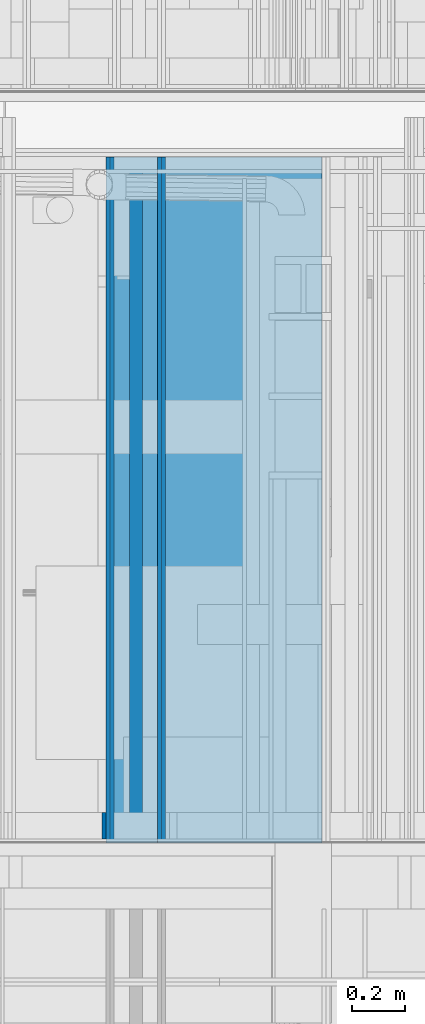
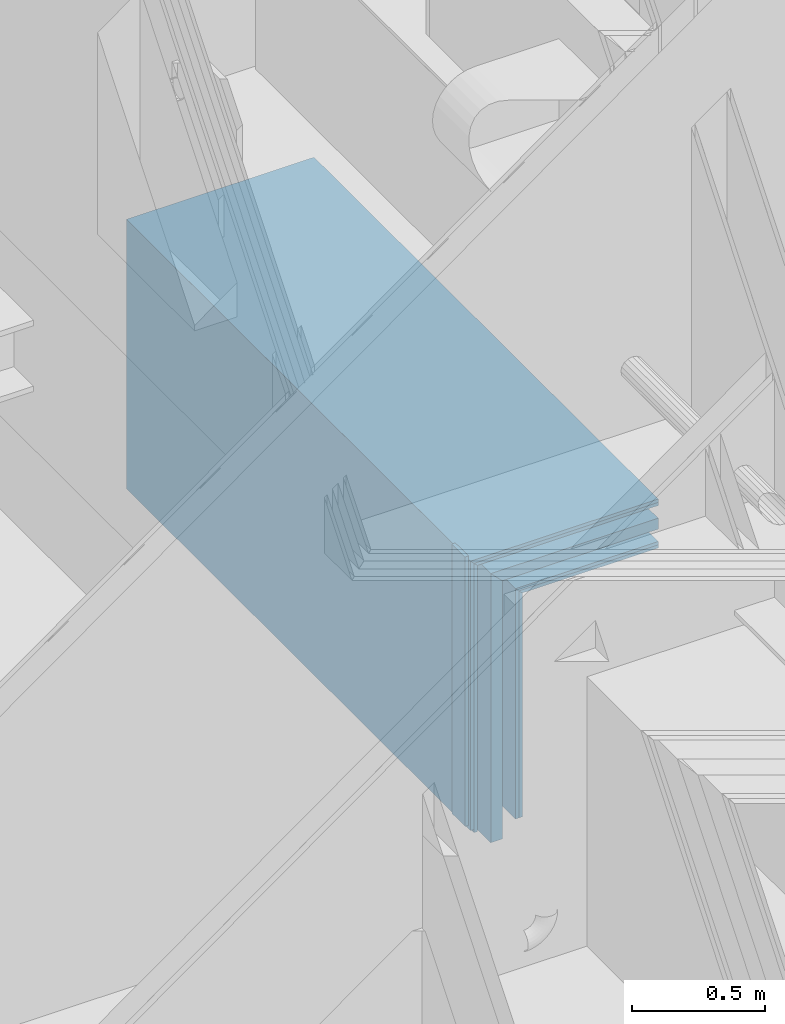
# One storey, part 17 of 583: 11 walls.
"""IFC2X3 building model written with IfcOpenShell, lengths in metres."""

from ifc_helpers import new_model, entity, si_unit, converted_unit, derived_unit, money_unit, direction, frame, frame_2d, origin_with_axes, place, context, subcontext, project, spatial, polyline, rectangle, outline, extrude, material, type_object, element, save


model = new_model("IFC2X3")

# Units and contexts
model_context = context("Model", 3, precision=1e-05, world=origin_with_axes(), true_north=direction((0.0, 1.0)))
body_context = subcontext(model_context, "Body", "Model", "MODEL_VIEW", scale=1.0)
ifc_project = project(units=[si_unit("LENGTHUNIT", "METRE"), si_unit("AREAUNIT", "SQUARE_METRE"), si_unit("VOLUMEUNIT", "CUBIC_METRE"), si_unit("ABSORBEDDOSEUNIT", "GRAY"), si_unit("AMOUNTOFSUBSTANCEUNIT", "MOLE"), si_unit("DOSEEQUIVALENTUNIT", "SIEVERT"), si_unit("ELECTRICCAPACITANCEUNIT", "FARAD"), si_unit("ELECTRICCHARGEUNIT", "COULOMB"), si_unit("ELECTRICCONDUCTANCEUNIT", "SIEMENS"), si_unit("ELECTRICCURRENTUNIT", "AMPERE"), si_unit("ELECTRICRESISTANCEUNIT", "OHM"), si_unit("ELECTRICVOLTAGEUNIT", "VOLT"), si_unit("ENERGYUNIT", "JOULE"), si_unit("FORCEUNIT", "NEWTON"), si_unit("FREQUENCYUNIT", "HERTZ"), si_unit("ILLUMINANCEUNIT", "LUX"), si_unit("INDUCTANCEUNIT", "HENRY"), si_unit("LUMINOUSFLUXUNIT", "LUMEN"), si_unit("LUMINOUSINTENSITYUNIT", "CANDELA"), si_unit("MAGNETICFLUXDENSITYUNIT", "TESLA"), si_unit("MAGNETICFLUXUNIT", "WEBER"), si_unit("MASSUNIT", "GRAM"), converted_unit("PLANEANGLEUNIT", "degree", entity("IfcReal", 0.0174532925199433), si_unit("PLANEANGLEUNIT", "RADIAN"), dimensions=[0, 0, 0, 0, 0, 0, 0]), si_unit("POWERUNIT", "WATT"), si_unit("PRESSUREUNIT", "PASCAL"), si_unit("RADIOACTIVITYUNIT", "BECQUEREL"), si_unit("SOLIDANGLEUNIT", "STERADIAN"), si_unit("THERMODYNAMICTEMPERATUREUNIT", "KELVIN"), si_unit("TIMEUNIT", "SECOND"), derived_unit("ACCELERATIONUNIT", [(si_unit("LENGTHUNIT", "METRE"), 1), (si_unit("TIMEUNIT", "SECOND"), -2)]), derived_unit("ANGULARVELOCITYUNIT", [(converted_unit("PLANEANGLEUNIT", "degree", entity("IfcReal", 0.0174532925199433), si_unit("PLANEANGLEUNIT", "RADIAN"), dimensions=[0, 0, 0, 0, 0, 0, 0]), 1), (si_unit("TIMEUNIT", "SECOND"), -1)]), derived_unit("CURVATUREUNIT", [(converted_unit("PLANEANGLEUNIT", "degree", entity("IfcReal", 0.0174532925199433), si_unit("PLANEANGLEUNIT", "RADIAN"), dimensions=[0, 0, 0, 0, 0, 0, 0]), 1), (si_unit("LENGTHUNIT", "METRE"), -1)]), derived_unit("DYNAMICVISCOSITYUNIT", [(si_unit("PRESSUREUNIT", "PASCAL"), 1), (si_unit("TIMEUNIT", "SECOND"), 1)]), derived_unit("HEATFLUXDENSITYUNIT", [(si_unit("POWERUNIT", "WATT"), 1), (si_unit("LENGTHUNIT", "METRE"), -2)]), derived_unit("HEATINGVALUEUNIT", [(si_unit("ENERGYUNIT", "JOULE"), 1), (si_unit("MASSUNIT", "GRAM"), -1)]), derived_unit("INTEGERCOUNTRATEUNIT", [(si_unit("TIMEUNIT", "SECOND"), -1)]), derived_unit("IONCONCENTRATIONUNIT", [(si_unit("MASSUNIT", "GRAM"), 1), (si_unit("VOLUMEUNIT", "CUBIC_METRE"), -1)]), derived_unit("ISOTHERMALMOISTURECAPACITYUNIT", [(si_unit("VOLUMEUNIT", "CUBIC_METRE"), 1), (si_unit("MASSUNIT", "GRAM"), -1)]), derived_unit("KINEMATICVISCOSITYUNIT", [(si_unit("AREAUNIT", "SQUARE_METRE"), 1), (si_unit("TIMEUNIT", "SECOND"), -1)]), derived_unit("LINEARFORCEUNIT", [(si_unit("FORCEUNIT", "NEWTON"), 1), (si_unit("LENGTHUNIT", "METRE"), -1)]), derived_unit("LINEARMOMENTUNIT", [(si_unit("FORCEUNIT", "NEWTON"), 1), (si_unit("LENGTHUNIT", "METRE"), -1)]), derived_unit("LINEARSTIFFNESSUNIT", [(si_unit("FORCEUNIT", "NEWTON"), 1), (si_unit("LENGTHUNIT", "METRE"), -1)]), derived_unit("LINEARVELOCITYUNIT", [(si_unit("LENGTHUNIT", "METRE"), 1), (si_unit("TIMEUNIT", "SECOND"), -1)]), derived_unit("LUMINOUSINTENSITYDISTRIBUTIONUNIT", [(si_unit("LUMINOUSINTENSITYUNIT", "CANDELA"), 1), (si_unit("LUMINOUSFLUXUNIT", "LUMEN"), -1)]), derived_unit("MASSDENSITYUNIT", [(si_unit("MASSUNIT", "GRAM"), 1), (si_unit("VOLUMEUNIT", "CUBIC_METRE"), -1)]), derived_unit("MASSFLOWRATEUNIT", [(si_unit("MASSUNIT", "GRAM"), 1), (si_unit("TIMEUNIT", "SECOND"), -1)]), derived_unit("MASSPERLENGTHUNIT", [(si_unit("MASSUNIT", "GRAM"), 1), (si_unit("LENGTHUNIT", "METRE"), -1)]), derived_unit("MODULUSOFELASTICITYUNIT", [(si_unit("FORCEUNIT", "NEWTON"), 1), (si_unit("AREAUNIT", "SQUARE_METRE"), -1)]), derived_unit("MODULUSOFLINEARSUBGRADEREACTIONUNIT", [(si_unit("FORCEUNIT", "NEWTON"), 1), (si_unit("LENGTHUNIT", "METRE"), -2)]), derived_unit("MODULUSOFROTATIONALSUBGRADEREACTIONUNIT", [(si_unit("FORCEUNIT", "NEWTON"), 1), (si_unit("LENGTHUNIT", "METRE"), 1)]), derived_unit("MODULUSOFSUBGRADEREACTIONUNIT", [(si_unit("FORCEUNIT", "NEWTON"), 1), (si_unit("VOLUMEUNIT", "CUBIC_METRE"), -1)]), derived_unit("MOISTUREDIFFUSIVITYUNIT", [(si_unit("VOLUMEUNIT", "CUBIC_METRE"), 1), (si_unit("TIMEUNIT", "SECOND"), -1)]), derived_unit("MOLECULARWEIGHTUNIT", [(si_unit("MASSUNIT", "GRAM"), 1), (si_unit("AMOUNTOFSUBSTANCEUNIT", "MOLE"), -1)]), derived_unit("PLANARFORCEUNIT", [(si_unit("FORCEUNIT", "NEWTON"), 1), (si_unit("LENGTHUNIT", "METRE"), -2)]), derived_unit("ROTATIONALFREQUENCYUNIT", [(si_unit("TIMEUNIT", "SECOND"), -1)]), derived_unit("ROTATIONALMASSUNIT", [(si_unit("MASSUNIT", "GRAM"), 1), (si_unit("LENGTHUNIT", "METRE"), 2)]), derived_unit("ROTATIONALSTIFFNESSUNIT", [(si_unit("FORCEUNIT", "NEWTON"), 1), (si_unit("LENGTHUNIT", "METRE"), 1), (converted_unit("PLANEANGLEUNIT", "degree", entity("IfcReal", 0.0174532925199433), si_unit("PLANEANGLEUNIT", "RADIAN"), dimensions=[0, 0, 0, 0, 0, 0, 0]), -1)]), derived_unit("SECTIONAREAINTEGRALUNIT", [(si_unit("LENGTHUNIT", "METRE"), 5)]), derived_unit("SECTIONMODULUSUNIT", [(si_unit("LENGTHUNIT", "METRE"), 3)]), derived_unit("SHEARMODULUSUNIT", [(si_unit("FORCEUNIT", "NEWTON"), 1), (si_unit("AREAUNIT", "SQUARE_METRE"), -1)]), derived_unit("SOUNDPOWERUNIT", [(si_unit("ENERGYUNIT", "JOULE"), 1), (si_unit("TIMEUNIT", "SECOND"), -1)]), derived_unit("SPECIFICHEATCAPACITYUNIT", [(si_unit("FORCEUNIT", "NEWTON"), 1), (si_unit("MASSUNIT", "GRAM"), -1), (si_unit("THERMODYNAMICTEMPERATUREUNIT", "KELVIN"), -1)]), derived_unit("TEMPERATUREGRADIENTUNIT", [(si_unit("THERMODYNAMICTEMPERATUREUNIT", "KELVIN"), 1), (si_unit("LENGTHUNIT", "METRE"), -1)]), derived_unit("THERMALADMITTANCEUNIT", [(si_unit("POWERUNIT", "WATT"), 1), (si_unit("AREAUNIT", "SQUARE_METRE"), -1), (si_unit("THERMODYNAMICTEMPERATUREUNIT", "KELVIN"), -1)]), derived_unit("THERMALCONDUCTANCEUNIT", [(si_unit("POWERUNIT", "WATT"), 1), (si_unit("LENGTHUNIT", "METRE"), -1), (si_unit("THERMODYNAMICTEMPERATUREUNIT", "KELVIN"), -1)]), derived_unit("THERMALEXPANSIONCOEFFICIENTUNIT", [(si_unit("THERMODYNAMICTEMPERATUREUNIT", "KELVIN"), -1)]), derived_unit("THERMALRESISTANCEUNIT", [(si_unit("AREAUNIT", "SQUARE_METRE"), 1), (si_unit("POWERUNIT", "WATT"), -1)]), derived_unit("THERMALTRANSMITTANCEUNIT", [(si_unit("POWERUNIT", "WATT"), 1), (si_unit("AREAUNIT", "SQUARE_METRE"), -1), (si_unit("THERMODYNAMICTEMPERATUREUNIT", "KELVIN"), -1)]), derived_unit("TORQUEUNIT", [(si_unit("FORCEUNIT", "NEWTON"), 1), (si_unit("LENGTHUNIT", "METRE"), 1)]), derived_unit("VAPORPERMEABILITYUNIT", [(si_unit("MASSUNIT", "GRAM"), 1), (si_unit("TIMEUNIT", "SECOND"), -1)]), derived_unit("VOLUMETRICFLOWRATEUNIT", [(si_unit("VOLUMEUNIT", "CUBIC_METRE"), 1), (si_unit("TIMEUNIT", "SECOND"), -1)]), derived_unit("WARPINGCONSTANTUNIT", [(si_unit("LENGTHUNIT", "METRE"), 6)]), derived_unit("WARPINGMOMENTUNIT", [(si_unit("FORCEUNIT", "NEWTON"), 1), (si_unit("LENGTHUNIT", "METRE"), 2)]), money_unit("GBP")], contexts=[model_context])

# Site, building, storey
site_placement = place(None, origin_with_axes())
site = spatial("IfcSite", under=ifc_project, at=site_placement, Name="Site", CompositionType="ELEMENT")
building_placement = place(site_placement, origin_with_axes())
building = spatial("IfcBuilding", under=site, at=building_placement, Name="Building01", CompositionType="ELEMENT")
storey_placement = place(building_placement, frame((0.0, 0.0, 20.78), z_axis=(0.0, 0.0, 1.0), x_axis=(1.0, 0.0, 0.0)))
storey = spatial("IfcBuildingStorey", under=building, at=storey_placement, Name="RL", CompositionType="ELEMENT", Elevation=20.78)

# Walls
ifc_material_1 = material(Name="A_BSUK_WallInternal_Finishes_Plasterboard")
wall_type = type_object("IfcWallType", Name="default", PredefinedType="NOTDEFINED")
wall_1_placement = place(storey_placement, frame((4.389428, 12.13, -6.155), z_axis=(0.0, 1.0, 0.0), x_axis=(0.0, 0.0, -1.0)))
element("IfcWall", 1, at=wall_1_placement, inside=storey, type_object=wall_type, material=ifc_material_1, Name="default", ObjectType="default", context=body_context, shape_type="SweptSolid", body=[
    extrude(outline(polyline([(1.0275, 0.015), (-0.015, 0.015), (0.0, 0.0), (1.0275, 0.0), (1.0275, 0.015)])), origin_with_axes(), (0.0, 0.0, 1.0), 2.59),
])
wall_2_placement = place(storey_placement, frame((4.374428, 12.13, -6.14), z_axis=(0.0, 1.0, 0.0), x_axis=(0.0, 0.0, -1.0)))
element("IfcWall", 2, at=wall_2_placement, inside=storey, type_object=wall_type, material=ifc_material_1, Name="default", ObjectType="default", context=body_context, shape_type="SweptSolid", body=[
    extrude(outline(polyline([(1.0425, 0.015), (-0.015, 0.015), (0.0, 0.0), (1.0425, 0.0), (1.0425, 0.015)])), origin_with_axes(), (0.0, 0.0, 1.0), 2.59),
])
ifc_material_2 = material(Name="A_BSUK_Insulation")
wall_3_placement = place(storey_placement, frame((4.302428, 12.13, -6.068), z_axis=(0.0, 1.0, 0.0), x_axis=(0.0, 0.0, -1.0)))
element("IfcWall", 3, at=wall_3_placement, inside=storey, type_object=wall_type, material=ifc_material_2, Name="default", ObjectType="default", context=body_context, shape_type="SweptSolid", body=[
    extrude(outline(polyline([(1.1865, 0.05), (-0.05, 0.05), (0.0, 0.0), (1.1865, 0.0), (1.1865, 0.05)])), origin_with_axes(), (0.0, 0.0, 1.0), 2.59),
])
for number, where, z_axis, x_axis, name in (
    (4, (4.194428, 12.13, -5.96), (0.0, 1.0, 0.0), (0.0, 0.0, -1.0), "default"),
    (5, (4.179428, 12.13, -5.945), (0.0, 1.0, 0.0), (0.0, 0.0, -1.0), "default"),
):
    element("IfcWall", number, at=place(storey_placement, frame(where, z_axis=z_axis, x_axis=x_axis)), inside=storey, type_object=wall_type, material=ifc_material_1, Name=name, ObjectType="default", context=body_context, shape_type="SweptSolid", body=[
        extrude(outline(polyline([(1.2225, 0.015), (-0.015, 0.015), (0.0, 0.0), (1.2225, 0.0), (1.2225, 0.015)])), origin_with_axes(), (0.0, 0.0, 1.0), 2.59),
    ])
ifc_material_3 = material(Name="A_BSUK_Walls_Timber")
wall_4_placement = place(storey_placement, frame((4.164428, 12.145, -5.915), z_axis=(0.0, 1.0, 0.0), x_axis=(0.0, 0.0, -1.0)))
element("IfcWall", 6, at=wall_4_placement, inside=storey, type_object=wall_type, material=ifc_material_3, Name="default", ObjectType="default", context=body_context, shape_type="SweptSolid", body=[
    extrude(rectangle(XDim=1.2375, YDim=0.015, at=frame_2d((0.61875, 0.0075), x_axis=(-1.0, 0.0))), origin_with_axes(), (0.0, 0.0, 1.0), 0.1),
])
wall_5_placement = place(storey_placement, frame((4.98, 12.13, -6.155), z_axis=(0.0, 1.0, 0.0), x_axis=(-1.0, 0.0, 0.0)))
element("IfcWall", 7, at=wall_5_placement, inside=storey, type_object=wall_type, material=ifc_material_1, Name="default", ObjectType="default", context=body_context, shape_type="SweptSolid", body=[
    extrude(outline(polyline([(0.605572, 0.015), (0.0, 0.015), (0.0, 0.0), (0.590572, 0.0), (0.605572, 0.015)])), origin_with_axes(), (0.0, 0.0, 1.0), 2.59),
])
wall_6_placement = place(storey_placement, frame((4.98, 12.13, -6.14), z_axis=(0.0, 1.0, 0.0), x_axis=(-1.0, 0.0, 0.0)))
element("IfcWall", 8, at=wall_6_placement, inside=storey, type_object=wall_type, material=ifc_material_1, Name="default", ObjectType="default", context=body_context, shape_type="SweptSolid", body=[
    extrude(outline(polyline([(0.620572, 0.015), (0.0, 0.015), (0.0, 0.0), (0.605572, 0.0), (0.620572, 0.015)])), origin_with_axes(), (0.0, 0.0, 1.0), 2.59),
])
wall_7_placement = place(storey_placement, frame((4.98, 12.13, -6.068), z_axis=(0.0, 1.0, 0.0), x_axis=(-1.0, 0.0, 0.0)))
element("IfcWall", 9, at=wall_7_placement, inside=storey, type_object=wall_type, material=ifc_material_2, Name="default", ObjectType="default", context=body_context, shape_type="SweptSolid", body=[
    extrude(outline(polyline([(0.727572, 0.05), (0.0, 0.05), (0.0, 0.0), (0.677572, 0.0), (0.727572, 0.05)])), origin_with_axes(), (0.0, 0.0, 1.0), 2.59),
])
wall_8_placement = place(storey_placement, frame((4.98, 12.13, -5.96), z_axis=(0.0, 1.0, 0.0), x_axis=(-1.0, 0.0, 0.0)))
element("IfcWall", 10, at=wall_8_placement, inside=storey, type_object=wall_type, material=ifc_material_1, Name="default", ObjectType="default", context=body_context, shape_type="SweptSolid", body=[
    extrude(outline(polyline([(0.800572, 0.015), (0.0, 0.015), (0.0, 0.0), (0.785572, 0.0), (0.800572, 0.015)])), origin_with_axes(), (0.0, 0.0, 1.0), 2.59),
])
wall_9_placement = place(storey_placement, frame((4.98, 12.13, -5.945), z_axis=(0.0, 1.0, 0.0), x_axis=(-1.0, 0.0, 0.0)))
element("IfcWall", 11, at=wall_9_placement, inside=storey, type_object=wall_type, material=ifc_material_1, Name="default", ObjectType="default", context=body_context, shape_type="SweptSolid", body=[
    extrude(outline(polyline([(0.815572, 0.015), (0.0, 0.015), (0.0, 0.0), (0.800572, 0.0), (0.815572, 0.015)])), origin_with_axes(), (0.0, 0.0, 1.0), 2.59),
])

save(model, "model.ifc")
